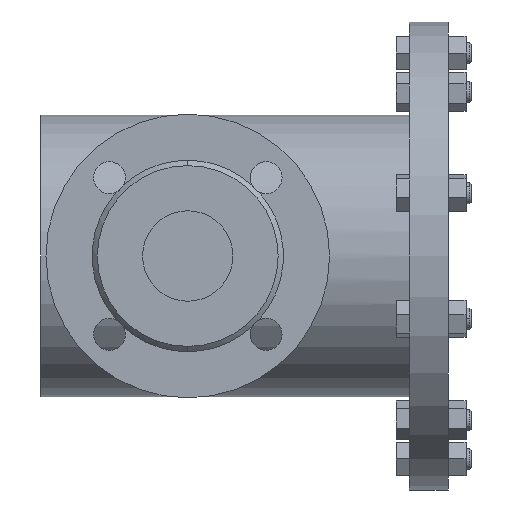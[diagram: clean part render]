
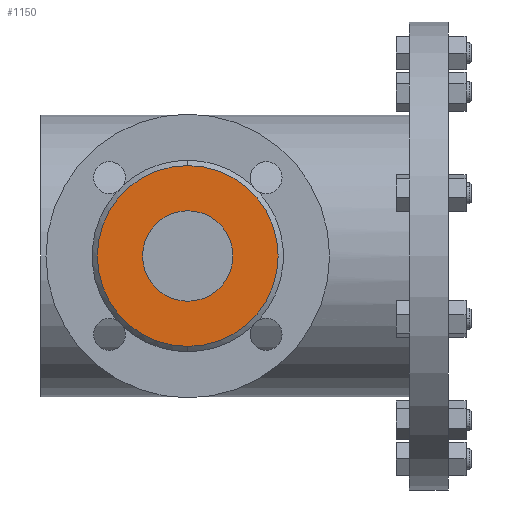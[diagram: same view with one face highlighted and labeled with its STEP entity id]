
A CAD part, left-side view. The second image highlights one B-rep face of the part: STEP entity #1150.
In plain terms, the highlighted planar face has unit normal (-1, 0, 0).
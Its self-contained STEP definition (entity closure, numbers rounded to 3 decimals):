
#8 = EDGE_CURVE ( 'NONE', #5437, #26, #5590, .T. ) ;
#26 = VERTEX_POINT ( 'NONE', #5335 ) ;
#377 = AXIS2_PLACEMENT_3D ( 'NONE', #5040, #7629, #1189 ) ;
#576 = VERTEX_POINT ( 'NONE', #1840 ) ;
#732 = ORIENTED_EDGE ( 'NONE', *, *, #7323, .T. ) ;
#968 = DIRECTION ( 'NONE',  ( -1., 0., 0. ) ) ;
#1107 = CARTESIAN_POINT ( 'NONE',  ( -180., 131., -25.5 ) ) ;
#1150 = ADVANCED_FACE ( 'NONE', ( #2500, #4366 ), #1832, .F. ) ;
#1189 = DIRECTION ( 'NONE',  ( 0., 0., -1. ) ) ;
#1432 = DIRECTION ( 'NONE',  ( 0., 0., 1. ) ) ;
#1820 = CIRCLE ( 'NONE', #5066, 51. ) ;
#1832 = PLANE ( 'NONE',  #4548 ) ;
#1840 = CARTESIAN_POINT ( 'NONE',  ( -180., 131., 25.5 ) ) ;
#2166 = CARTESIAN_POINT ( 'NONE',  ( -180., 131., 51. ) ) ;
#2282 = CARTESIAN_POINT ( 'NONE',  ( -180., 131., 0. ) ) ;
#2424 = DIRECTION ( 'NONE',  ( 1., 0., 0. ) ) ;
#2500 = FACE_BOUND ( 'NONE', #2529, .T. ) ;
#2529 = EDGE_LOOP ( 'NONE', ( #7383, #7739 ) ) ;
#2822 = VERTEX_POINT ( 'NONE', #1107 ) ;
#3215 = CARTESIAN_POINT ( 'NONE',  ( -180., 131., 0. ) ) ;
#3292 = DIRECTION ( 'NONE',  ( 0., 0., -1. ) ) ;
#3805 = ORIENTED_EDGE ( 'NONE', *, *, #8, .T. ) ;
#3939 = EDGE_CURVE ( 'NONE', #576, #2822, #5534, .T. ) ;
#3981 = CARTESIAN_POINT ( 'NONE',  ( -180., 131., 0. ) ) ;
#4366 = FACE_OUTER_BOUND ( 'NONE', #5102, .T. ) ;
#4548 = AXIS2_PLACEMENT_3D ( 'NONE', #3215, #2424, #6984 ) ;
#5040 = CARTESIAN_POINT ( 'NONE',  ( -180., 131., 0. ) ) ;
#5066 = AXIS2_PLACEMENT_3D ( 'NONE', #2282, #968, #6228 ) ;
#5102 = EDGE_LOOP ( 'NONE', ( #732, #3805 ) ) ;
#5138 = CARTESIAN_POINT ( 'NONE',  ( -180., 131., 0. ) ) ;
#5335 = CARTESIAN_POINT ( 'NONE',  ( -180., 131., -51. ) ) ;
#5437 = VERTEX_POINT ( 'NONE', #2166 ) ;
#5534 = CIRCLE ( 'NONE', #377, 25.5 ) ;
#5590 = CIRCLE ( 'NONE', #6263, 51. ) ;
#6228 = DIRECTION ( 'NONE',  ( 0., 0., 1. ) ) ;
#6263 = AXIS2_PLACEMENT_3D ( 'NONE', #3981, #6618, #1432 ) ;
#6350 = EDGE_CURVE ( 'NONE', #2822, #576, #6862, .T. ) ;
#6577 = DIRECTION ( 'NONE',  ( -1., 0., 0. ) ) ;
#6590 = AXIS2_PLACEMENT_3D ( 'NONE', #5138, #6577, #3292 ) ;
#6618 = DIRECTION ( 'NONE',  ( -1., 0., 0. ) ) ;
#6862 = CIRCLE ( 'NONE', #6590, 25.5 ) ;
#6984 = DIRECTION ( 'NONE',  ( 0., 0., -1. ) ) ;
#7323 = EDGE_CURVE ( 'NONE', #26, #5437, #1820, .T. ) ;
#7383 = ORIENTED_EDGE ( 'NONE', *, *, #3939, .F. ) ;
#7629 = DIRECTION ( 'NONE',  ( -1., 0., 0. ) ) ;
#7739 = ORIENTED_EDGE ( 'NONE', *, *, #6350, .F. ) ;
